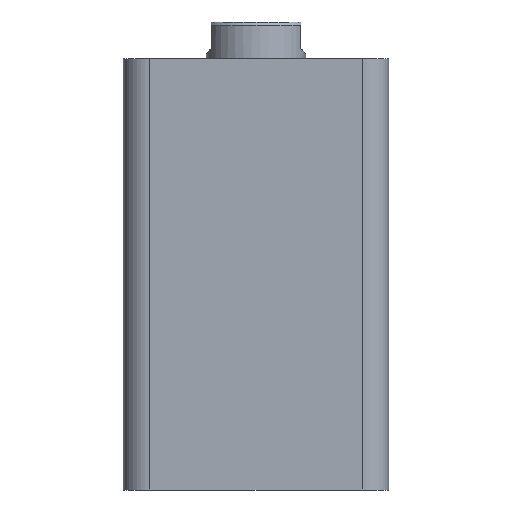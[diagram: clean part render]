
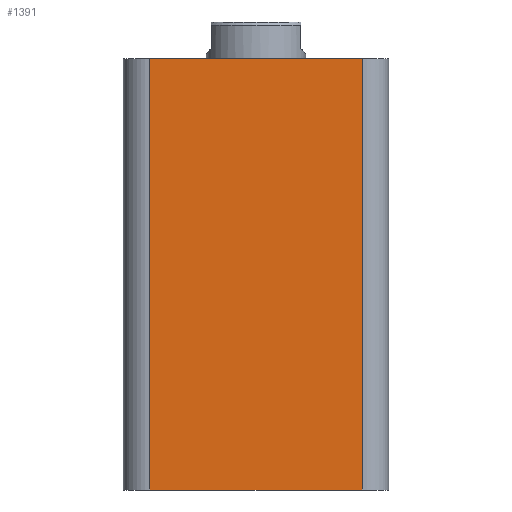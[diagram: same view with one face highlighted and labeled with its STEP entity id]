
A CAD part, front view. The second image highlights one B-rep face of the part: STEP entity #1391.
In plain terms, the highlighted planar face has unit normal (0, -1, 0).
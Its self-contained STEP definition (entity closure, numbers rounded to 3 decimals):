
#1 = VECTOR ( 'NONE', #1956, 1000. ) ;
#2 = LINE ( 'NONE', #1955, #84 ) ;
#4 = LINE ( 'NONE', #1957, #1 ) ;
#84 = VECTOR ( 'NONE', #1954, 1000. ) ;
#132 = ORIENTED_EDGE ( 'NONE', *, *, #934, .F. ) ;
#133 = ORIENTED_EDGE ( 'NONE', *, *, #935, .T. ) ;
#312 = ORIENTED_EDGE ( 'NONE', *, *, #936, .T. ) ;
#363 = VERTEX_POINT ( 'NONE', #1768 ) ;
#380 = ORIENTED_EDGE ( 'NONE', *, *, #937, .T. ) ;
#410 = VERTEX_POINT ( 'NONE', #1726 ) ;
#475 = VERTEX_POINT ( 'NONE', #1890 ) ;
#520 = VERTEX_POINT ( 'NONE', #1866 ) ;
#735 = DIRECTION ( 'NONE',  ( 0., 1., 0. ) ) ;
#738 = PLANE ( 'NONE',  #1588 ) ;
#741 = DIRECTION ( 'NONE',  ( 0., 0., 1. ) ) ;
#753 = CARTESIAN_POINT ( 'NONE',  ( -40., -40., 130. ) ) ;
#934 = EDGE_CURVE ( 'NONE', #475, #410, #4, .T. ) ;
#935 = EDGE_CURVE ( 'NONE', #475, #520, #2, .T. ) ;
#936 = EDGE_CURVE ( 'NONE', #520, #363, #1353, .T. ) ;
#937 = EDGE_CURVE ( 'NONE', #363, #410, #1354, .T. ) ;
#1172 = FACE_OUTER_BOUND ( 'NONE', #2558, .T. ) ;
#1350 = VECTOR ( 'NONE', #1951, 1000. ) ;
#1352 = VECTOR ( 'NONE', #1953, 1000. ) ;
#1353 = LINE ( 'NONE', #1967, #1352 ) ;
#1354 = LINE ( 'NONE', #1952, #1350 ) ;
#1391 = ADVANCED_FACE ( 'NONE', ( #1172 ), #738, .F. ) ;
#1588 = AXIS2_PLACEMENT_3D ( 'NONE', #753, #735, #741 ) ;
#1726 = CARTESIAN_POINT ( 'NONE',  ( 32., -40., 130. ) ) ;
#1768 = CARTESIAN_POINT ( 'NONE',  ( 32., -40., 0. ) ) ;
#1866 = CARTESIAN_POINT ( 'NONE',  ( -32., -40., 0. ) ) ;
#1890 = CARTESIAN_POINT ( 'NONE',  ( -32., -40., 130. ) ) ;
#1951 = DIRECTION ( 'NONE',  ( 0., 0., 1. ) ) ;
#1952 = CARTESIAN_POINT ( 'NONE',  ( 32., -40., 130. ) ) ;
#1953 = DIRECTION ( 'NONE',  ( 1., 0., 0. ) ) ;
#1954 = DIRECTION ( 'NONE',  ( 0., 0., -1. ) ) ;
#1955 = CARTESIAN_POINT ( 'NONE',  ( -32., -40., 130. ) ) ;
#1956 = DIRECTION ( 'NONE',  ( 1., 0., 0. ) ) ;
#1957 = CARTESIAN_POINT ( 'NONE',  ( -40., -40., 130. ) ) ;
#1967 = CARTESIAN_POINT ( 'NONE',  ( -40., -40., 0. ) ) ;
#2558 = EDGE_LOOP ( 'NONE', ( #132, #133, #312, #380 ) ) ;
